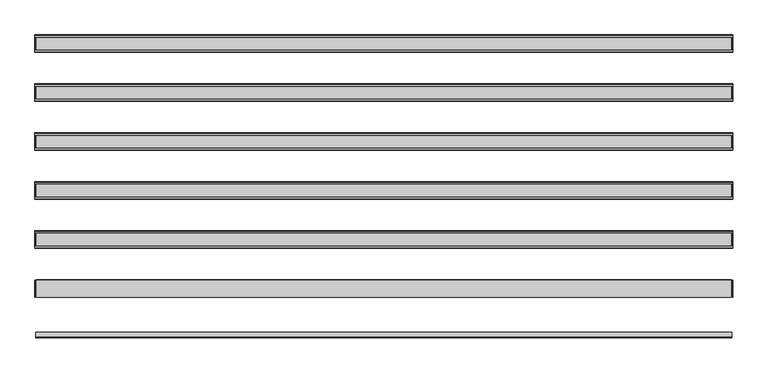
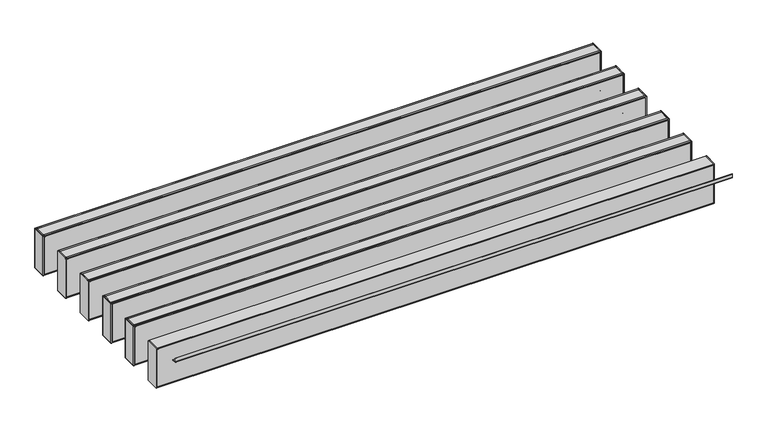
"""IFC4 building model written with IfcOpenShell, lengths in millimetres: proxy geometry, durlum_POLYLAM : durlum_POLYLAM 100 RV-L6."""

from ifc_helpers import new_model, si_unit, point, frame, frame_2d, origin, place, context, project, spatial, polyline, circle_curve, trimmed, segment, composite_curve, outline, extrude, source, transform, mapped, element, save
from ifc_brep_helpers import plane_surface, cylinder_surface, advanced_brep


def generic_models_18f5319a(model_context):
    return source(origin(), model_context, "Body", "SolidModel", [
        extrude(outline(composite_curve([segment(polyline([(2.0, 2079.9), (2.0, 2054.0)]), True, "CONTINUOUS"), segment(trimmed(circle_curve(frame_2d((4.0, 2054.0)), 2.0), [point((2.0, 2054.0))], [point((4.0, 2052.0))], True, "CARTESIAN"), True, "CONTINUOUS"), segment(polyline([(4.0, 2052.0), (29.9, 2052.0), (29.9, 2050.0), (4.0, 2050.0)]), True, "CONTINUOUS"), segment(trimmed(circle_curve(frame_2d((4.0, 2054.0)), 4.0), [point((4.0, 2050.0))], [point((0.0, 2054.0))], False, "CARTESIAN"), True, "CONTINUOUS"), segment(polyline([(0.0, 2054.0), (0.0, 2079.9), (2.0, 2079.9)]), True, "CONTINUOUS")], self_intersect=False)), frame((-1990.0, 0.0, 0.0), z_axis=(1.0, 0.0, 0.0), x_axis=(0.0, 1.0, 0.0)), (0.0, 0.0, 1.0), 3980.0),
        extrude(outline(polyline([(1993.0, 1729.0), (1995.0, 1729.0), (1995.0, 1631.0), (1993.0, 1631.0), (1993.0, 1729.0)])), frame((0.0, 0.0, 1717.9), z_axis=(0.0, 0.0, 1.0), x_axis=(1.0, 0.0, 0.0)), (0.0, 0.0, 1.0), 298.0),
        extrude(outline(polyline([(-1995.0, 1729.0), (-1993.0, 1729.0), (-1993.0, 1631.0), (-1995.0, 1631.0), (-1995.0, 1729.0)])), frame((0.0, 0.0, 1717.9), z_axis=(0.0, 0.0, 1.0), x_axis=(1.0, 0.0, 0.0)), (0.0, 0.0, 1.0), 298.0),
        extrude(outline(polyline([(1986.5, 1729.0), (1986.5, 1631.0), (-1986.5, 1631.0), (-1986.5, 1729.0), (1986.5, 1729.0)])), frame((0.0, 0.0, 1717.9), z_axis=(0.0, 0.0, 1.0), x_axis=(1.0, 0.0, 0.0)), (0.0, 0.0, 1.0), 298.0),
        extrude(outline(polyline([(1986.5, 1729.0), (-1986.5, 1729.0), (-1986.5, 1730.0), (1986.5, 1730.0), (1986.5, 1729.0)])), frame((0.0, 0.0, 1725.4), z_axis=(0.0, 0.0, 1.0), x_axis=(1.0, 0.0, 0.0)), (0.0, 0.0, 1.0), 283.0),
        extrude(outline(polyline([(1986.5, 1630.0), (-1986.5, 1630.0), (-1986.5, 1631.0), (1986.5, 1631.0), (1986.5, 1630.0)])), frame((0.0, 0.0, 1725.4), z_axis=(0.0, 0.0, 1.0), x_axis=(1.0, 0.0, 0.0)), (0.0, 0.0, 1.0), 283.0),
        advanced_brep(
        [(1995.0, 1728.0, 2016.9), (1995.0, 1718.0, 2016.9), (1995.0, 1718.0, 2015.9), (1995.0, 1729.0, 2015.9), (1995.0, 1729.0, 1717.9), (1995.0, 1631.0, 1717.9), (1995.0, 1631.0, 2015.8155735), (1995.0, 1642.0, 2015.8155735), (1995.0, 1642.0, 2016.9), (1995.0, 1632.0, 2016.9), (1995.0, 1630.0, 2014.9), (1995.0, 1630.0, 1718.9), (1995.0, 1632.0, 1716.9), (1995.0, 1728.0, 1716.9), (1995.0, 1730.0, 1718.9), (1995.0, 1730.0, 2014.9), (-1995.0, 1728.0, 2016.9), (-1995.0, 1730.0, 2014.9), (-1995.0, 1730.0, 1718.9), (-1995.0, 1728.0, 1716.9), (-1995.0, 1632.0, 1716.9), (-1995.0, 1630.0, 1718.9), (-1995.0, 1630.0, 2014.9), (-1995.0, 1632.0, 2016.9), (-1995.0, 1642.0, 2016.9), (-1995.0, 1642.0, 2015.8155735), (-1995.0, 1631.0, 2015.8155735), (-1995.0, 1631.0, 1717.9), (-1995.0, 1729.0, 1717.9), (-1995.0, 1729.0, 2015.9), (-1995.0, 1718.0, 2015.9), (-1995.0, 1718.0, 2016.9), (-1986.5, 1729.0, 2008.4), (1986.5, 1729.0, 2008.4), (1986.5, 1729.0, 1725.4), (-1986.5, 1729.0, 1725.4), (1986.5, 1631.0, 2008.4), (-1986.5, 1631.0, 2008.4), (-1986.5, 1631.0, 1725.4), (1986.5, 1631.0, 1725.4), (-1986.5, 1630.0, 2008.4), (1986.5, 1630.0, 2008.4), (1986.5, 1630.0, 1725.4), (-1986.5, 1630.0, 1725.4), (1986.5, 1730.0, 2008.4), (-1986.5, 1730.0, 2008.4), (-1986.5, 1730.0, 1725.4), (1986.5, 1730.0, 1725.4)],
        [
            (0, 1),
            (1, 2),
            (2, 3),
            (3, 4),
            (4, 5),
            (5, 6),
            (6, 7),
            (7, 8),
            (8, 9),
            (9, 10, circle_curve(frame((1995.0, 1632.0, 2014.9), z_axis=(1.0, 0.0, 0.0), x_axis=(0.0, 1.0, 0.0)), 2.0)),
            (10, 11),
            (11, 12, circle_curve(frame((1995.0, 1632.0, 1718.9), z_axis=(1.0, 0.0, 0.0), x_axis=(0.0, 1.0, 0.0)), 2.0)),
            (12, 13),
            (13, 14, circle_curve(frame((1995.0, 1728.0, 1718.9), z_axis=(1.0, 0.0, 0.0), x_axis=(0.0, 1.0, 0.0)), 2.0)),
            (14, 15),
            (15, 0, circle_curve(frame((1995.0, 1728.0, 2014.9), z_axis=(1.0, 0.0, 0.0), x_axis=(0.0, 1.0, 0.0)), 2.0)),
            (16, 17, circle_curve(frame((-1995.0, 1728.0, 2014.9), z_axis=(-1.0, 0.0, 0.0), x_axis=(0.0, 1.0, 0.0)), 2.0)),
            (17, 18),
            (18, 19, circle_curve(frame((-1995.0, 1728.0, 1718.9), z_axis=(-1.0, 0.0, 0.0), x_axis=(0.0, 1.0, 0.0)), 2.0)),
            (19, 20),
            (20, 21, circle_curve(frame((-1995.0, 1632.0, 1718.9), z_axis=(-1.0, 0.0, 0.0), x_axis=(0.0, 1.0, 0.0)), 2.0)),
            (21, 22),
            (22, 23, circle_curve(frame((-1995.0, 1632.0, 2014.9), z_axis=(-1.0, 0.0, 0.0), x_axis=(0.0, 1.0, 0.0)), 2.0)),
            (23, 24),
            (24, 25),
            (25, 26),
            (26, 27),
            (27, 28),
            (28, 29),
            (29, 30),
            (30, 31),
            (31, 16),
            (0, 16),
            (31, 1),
            (30, 2),
            (29, 3),
            (28, 4),
            (32, 33),
            (33, 34),
            (34, 35),
            (35, 32),
            (27, 5),
            (26, 6),
            (36, 37),
            (37, 38),
            (38, 39),
            (39, 36),
            (25, 7),
            (24, 8),
            (23, 9),
            (10, 22),
            (21, 11),
            (40, 41),
            (41, 42),
            (42, 43),
            (43, 40),
            (12, 20),
            (19, 13),
            (14, 18),
            (17, 15),
            (44, 45),
            (45, 46),
            (46, 47),
            (47, 44),
            (44, 33),
            (32, 45),
            (36, 41),
            (40, 37),
            (35, 46),
            (43, 38),
            (34, 47),
            (42, 39),
        ],
        [
            plane_surface(frame((1995.0, 1718.0, 2016.9), z_axis=(1.0, 0.0, 0.0), x_axis=(0.0, -1.0, 0.0))),
            plane_surface(frame((-1995.0, 1718.0, 2016.9), z_axis=(-1.0, 0.0, 0.0), x_axis=(0.0, 1.0, 0.0))),
            plane_surface(frame((1995.0, 1728.0, 2016.9), z_axis=(0.0, 0.0, 1.0), x_axis=(-1.0, 0.0, 0.0))),
            plane_surface(frame((1995.0, 1718.0, 2016.9), z_axis=(0.0, -1.0, 0.0), x_axis=(-1.0, 0.0, 0.0))),
            plane_surface(frame((1995.0, 1718.0, 2015.9), z_axis=(0.0, 0.0, -1.0), x_axis=(-1.0, 0.0, 0.0))),
            plane_surface(frame((1995.0, 1729.0, 2015.9), z_axis=(0.0, -1.0, 0.0), x_axis=(-1.0, 0.0, 0.0))),
            plane_surface(frame((1995.0, 1729.0, 1717.9), z_axis=(0.0, 0.0, 1.0), x_axis=(-1.0, 0.0, 0.0))),
            plane_surface(frame((1995.0, 1631.0, 1717.9), z_axis=(0.0, 1.0, 0.0), x_axis=(-1.0, 0.0, 0.0))),
            plane_surface(frame((1995.0, 1631.0, 2015.8155735), z_axis=(0.0, 0.0, -1.0), x_axis=(-1.0, 0.0, 0.0))),
            plane_surface(frame((1995.0, 1642.0, 2015.8155735), z_axis=(0.0, 1.0, 0.0), x_axis=(-1.0, 0.0, 0.0))),
            plane_surface(frame((1995.0, 1642.0, 2016.9), z_axis=(0.0, 0.0, 1.0), x_axis=(-1.0, 0.0, 0.0))),
            plane_surface(frame((1995.0, 1630.0, 2014.9), z_axis=(0.0, -1.0, 0.0), x_axis=(-1.0, 0.0, 0.0))),
            plane_surface(frame((1995.0, 1632.0, 1716.9), z_axis=(0.0, 0.0, -1.0), x_axis=(-1.0, 0.0, 0.0))),
            plane_surface(frame((1995.0, 1730.0, 1718.9), z_axis=(0.0, 1.0, 0.0), x_axis=(-1.0, 0.0, 0.0))),
            cylinder_surface(frame((-1995.0, 1632.0, 2014.9), z_axis=(1.0, 0.0, 0.0), x_axis=(0.0, 1.0, 0.0)), 2.0),
            cylinder_surface(frame((-1995.0, 1632.0, 1718.9), z_axis=(1.0, 0.0, 0.0), x_axis=(0.0, 1.0, 0.0)), 2.0),
            cylinder_surface(frame((-1995.0, 1728.0, 1718.9), z_axis=(1.0, 0.0, 0.0), x_axis=(0.0, 1.0, 0.0)), 2.0),
            cylinder_surface(frame((-1995.0, 1728.0, 2014.9), z_axis=(1.0, 0.0, 0.0), x_axis=(0.0, 1.0, 0.0)), 2.0),
            plane_surface(frame((1986.5, 1630.0, 2008.4), z_axis=(0.0, 0.0, -1.0), x_axis=(0.0, 1.0, 0.0))),
            plane_surface(frame((-1986.5, 1630.0, 2008.4), z_axis=(1.0, 0.0, 0.0), x_axis=(0.0, 1.0, 0.0))),
            plane_surface(frame((-1986.5, 1630.0, 1725.4), z_axis=(0.0, 0.0, 1.0), x_axis=(0.0, 1.0, 0.0))),
            plane_surface(frame((1986.5, 1630.0, 1725.4), z_axis=(-1.0, 0.0, 0.0), x_axis=(0.0, 1.0, 0.0))),
        ],
        [
            (0, [[1, 2, 3, 4, 5, 6, 7, 8, 9, 10, 11, 12, 13, 14, 15, 16]]),
            (1, [[17, 18, 19, 20, 21, 22, 23, 24, 25, 26, 27, 28, 29, 30, 31, 32]]),
            (2, [[-1, 33, -32, 34]]),
            (3, [[-2, -34, -31, 35]]),
            (4, [[-3, -35, -30, 36]]),
            (5, [[-4, -36, -29, 37], [38, 39, 40, 41]]),
            (6, [[-5, -37, -28, 42]]),
            (7, [[-6, -42, -27, 43], [44, 45, 46, 47]]),
            (8, [[-7, -43, -26, 48]]),
            (9, [[-8, -48, -25, 49]]),
            (10, [[-9, -49, -24, 50]]),
            (11, [[-11, 51, -22, 52], [53, 54, 55, 56]]),
            (12, [[-13, 57, -20, 58]]),
            (13, [[-15, 59, -18, 60], [61, 62, 63, 64]]),
            (14, [[-10, -50, -23, -51]]),
            (15, [[-12, -52, -21, -57]]),
            (16, [[-14, -58, -19, -59]]),
            (17, [[-16, -60, -17, -33]]),
            (18, [[65, -38, 66, -61]]),
            (18, [[67, -53, 68, -44]]),
            (19, [[-66, -41, 69, -62]]),
            (19, [[-68, -56, 70, -45]]),
            (20, [[-69, -40, 71, -63]]),
            (20, [[-70, -55, 72, -46]]),
            (21, [[-65, -64, -71, -39]]),
            (21, [[-67, -47, -72, -54]]),
        ],
    ),
        extrude(outline(polyline([(1993.0, 1449.0), (1995.0, 1449.0), (1995.0, 1351.0), (1993.0, 1351.0), (1993.0, 1449.0)])), frame((0.0, 0.0, 1717.9), z_axis=(0.0, 0.0, 1.0), x_axis=(1.0, 0.0, 0.0)), (0.0, 0.0, 1.0), 298.0),
        extrude(outline(polyline([(-1995.0, 1449.0), (-1993.0, 1449.0), (-1993.0, 1351.0), (-1995.0, 1351.0), (-1995.0, 1449.0)])), frame((0.0, 0.0, 1717.9), z_axis=(0.0, 0.0, 1.0), x_axis=(1.0, 0.0, 0.0)), (0.0, 0.0, 1.0), 298.0),
        extrude(outline(polyline([(1986.5, 1449.0), (1986.5, 1351.0), (-1986.5, 1351.0), (-1986.5, 1449.0), (1986.5, 1449.0)])), frame((0.0, 0.0, 1717.9), z_axis=(0.0, 0.0, 1.0), x_axis=(1.0, 0.0, 0.0)), (0.0, 0.0, 1.0), 298.0),
        extrude(outline(polyline([(1986.5, 1449.0), (-1986.5, 1449.0), (-1986.5, 1450.0), (1986.5, 1450.0), (1986.5, 1449.0)])), frame((0.0, 0.0, 1725.4), z_axis=(0.0, 0.0, 1.0), x_axis=(1.0, 0.0, 0.0)), (0.0, 0.0, 1.0), 283.0),
        extrude(outline(polyline([(1986.5, 1350.0), (-1986.5, 1350.0), (-1986.5, 1351.0), (1986.5, 1351.0), (1986.5, 1350.0)])), frame((0.0, 0.0, 1725.4), z_axis=(0.0, 0.0, 1.0), x_axis=(1.0, 0.0, 0.0)), (0.0, 0.0, 1.0), 283.0),
        advanced_brep(
        [(1995.0, 1448.0, 2016.9), (1995.0, 1438.0, 2016.9), (1995.0, 1438.0, 2015.9), (1995.0, 1449.0, 2015.9), (1995.0, 1449.0, 1717.9), (1995.0, 1351.0, 1717.9), (1995.0, 1351.0, 2015.8155735), (1995.0, 1362.0, 2015.8155735), (1995.0, 1362.0, 2016.9), (1995.0, 1352.0, 2016.9), (1995.0, 1350.0, 2014.9), (1995.0, 1350.0, 1718.9), (1995.0, 1352.0, 1716.9), (1995.0, 1448.0, 1716.9), (1995.0, 1450.0, 1718.9), (1995.0, 1450.0, 2014.9), (-1995.0, 1448.0, 2016.9), (-1995.0, 1450.0, 2014.9), (-1995.0, 1450.0, 1718.9), (-1995.0, 1448.0, 1716.9), (-1995.0, 1352.0, 1716.9), (-1995.0, 1350.0, 1718.9), (-1995.0, 1350.0, 2014.9), (-1995.0, 1352.0, 2016.9), (-1995.0, 1362.0, 2016.9), (-1995.0, 1362.0, 2015.8155735), (-1995.0, 1351.0, 2015.8155735), (-1995.0, 1351.0, 1717.9), (-1995.0, 1449.0, 1717.9), (-1995.0, 1449.0, 2015.9), (-1995.0, 1438.0, 2015.9), (-1995.0, 1438.0, 2016.9), (-1986.5, 1449.0, 2008.4), (1986.5, 1449.0, 2008.4), (1986.5, 1449.0, 1725.4), (-1986.5, 1449.0, 1725.4), (1986.5, 1351.0, 2008.4), (-1986.5, 1351.0, 2008.4), (-1986.5, 1351.0, 1725.4), (1986.5, 1351.0, 1725.4), (-1986.5, 1350.0, 2008.4), (1986.5, 1350.0, 2008.4), (1986.5, 1350.0, 1725.4), (-1986.5, 1350.0, 1725.4), (1986.5, 1450.0, 2008.4), (-1986.5, 1450.0, 2008.4), (-1986.5, 1450.0, 1725.4), (1986.5, 1450.0, 1725.4)],
        [
            (0, 1),
            (1, 2),
            (2, 3),
            (3, 4),
            (4, 5),
            (5, 6),
            (6, 7),
            (7, 8),
            (8, 9),
            (9, 10, circle_curve(frame((1995.0, 1352.0, 2014.9), z_axis=(1.0, 0.0, 0.0), x_axis=(0.0, 1.0, 0.0)), 2.0)),
            (10, 11),
            (11, 12, circle_curve(frame((1995.0, 1352.0, 1718.9), z_axis=(1.0, 0.0, 0.0), x_axis=(0.0, 1.0, 0.0)), 2.0)),
            (12, 13),
            (13, 14, circle_curve(frame((1995.0, 1448.0, 1718.9), z_axis=(1.0, 0.0, 0.0), x_axis=(0.0, 1.0, 0.0)), 2.0)),
            (14, 15),
            (15, 0, circle_curve(frame((1995.0, 1448.0, 2014.9), z_axis=(1.0, 0.0, 0.0), x_axis=(0.0, 1.0, 0.0)), 2.0)),
            (16, 17, circle_curve(frame((-1995.0, 1448.0, 2014.9), z_axis=(-1.0, 0.0, 0.0), x_axis=(0.0, 1.0, 0.0)), 2.0)),
            (17, 18),
            (18, 19, circle_curve(frame((-1995.0, 1448.0, 1718.9), z_axis=(-1.0, 0.0, 0.0), x_axis=(0.0, 1.0, 0.0)), 2.0)),
            (19, 20),
            (20, 21, circle_curve(frame((-1995.0, 1352.0, 1718.9), z_axis=(-1.0, 0.0, 0.0), x_axis=(0.0, 1.0, 0.0)), 2.0)),
            (21, 22),
            (22, 23, circle_curve(frame((-1995.0, 1352.0, 2014.9), z_axis=(-1.0, 0.0, 0.0), x_axis=(0.0, 1.0, 0.0)), 2.0)),
            (23, 24),
            (24, 25),
            (25, 26),
            (26, 27),
            (27, 28),
            (28, 29),
            (29, 30),
            (30, 31),
            (31, 16),
            (0, 16),
            (31, 1),
            (30, 2),
            (29, 3),
            (28, 4),
            (32, 33),
            (33, 34),
            (34, 35),
            (35, 32),
            (27, 5),
            (26, 6),
            (36, 37),
            (37, 38),
            (38, 39),
            (39, 36),
            (25, 7),
            (24, 8),
            (23, 9),
            (10, 22),
            (21, 11),
            (40, 41),
            (41, 42),
            (42, 43),
            (43, 40),
            (12, 20),
            (19, 13),
            (14, 18),
            (17, 15),
            (44, 45),
            (45, 46),
            (46, 47),
            (47, 44),
            (44, 33),
            (32, 45),
            (36, 41),
            (40, 37),
            (35, 46),
            (43, 38),
            (34, 47),
            (42, 39),
        ],
        [
            plane_surface(frame((1995.0, 1438.0, 2016.9), z_axis=(1.0, 0.0, 0.0), x_axis=(0.0, -1.0, 0.0))),
            plane_surface(frame((-1995.0, 1438.0, 2016.9), z_axis=(-1.0, 0.0, 0.0), x_axis=(0.0, 1.0, 0.0))),
            plane_surface(frame((1995.0, 1448.0, 2016.9), z_axis=(0.0, 0.0, 1.0), x_axis=(-1.0, 0.0, 0.0))),
            plane_surface(frame((1995.0, 1438.0, 2016.9), z_axis=(0.0, -1.0, 0.0), x_axis=(-1.0, 0.0, 0.0))),
            plane_surface(frame((1995.0, 1438.0, 2015.9), z_axis=(0.0, 0.0, -1.0), x_axis=(-1.0, 0.0, 0.0))),
            plane_surface(frame((1995.0, 1449.0, 2015.9), z_axis=(0.0, -1.0, 0.0), x_axis=(-1.0, 0.0, 0.0))),
            plane_surface(frame((1995.0, 1449.0, 1717.9), z_axis=(0.0, 0.0, 1.0), x_axis=(-1.0, 0.0, 0.0))),
            plane_surface(frame((1995.0, 1351.0, 1717.9), z_axis=(0.0, 1.0, 0.0), x_axis=(-1.0, 0.0, 0.0))),
            plane_surface(frame((1995.0, 1351.0, 2015.8155735), z_axis=(0.0, 0.0, -1.0), x_axis=(-1.0, 0.0, 0.0))),
            plane_surface(frame((1995.0, 1362.0, 2015.8155735), z_axis=(0.0, 1.0, 0.0), x_axis=(-1.0, 0.0, 0.0))),
            plane_surface(frame((1995.0, 1362.0, 2016.9), z_axis=(0.0, 0.0, 1.0), x_axis=(-1.0, 0.0, 0.0))),
            plane_surface(frame((1995.0, 1350.0, 2014.9), z_axis=(0.0, -1.0, 0.0), x_axis=(-1.0, 0.0, 0.0))),
            plane_surface(frame((1995.0, 1352.0, 1716.9), z_axis=(0.0, 0.0, -1.0), x_axis=(-1.0, 0.0, 0.0))),
            plane_surface(frame((1995.0, 1450.0, 1718.9), z_axis=(0.0, 1.0, 0.0), x_axis=(-1.0, 0.0, 0.0))),
            cylinder_surface(frame((-1995.0, 1352.0, 2014.9), z_axis=(1.0, 0.0, 0.0), x_axis=(0.0, 1.0, 0.0)), 2.0),
            cylinder_surface(frame((-1995.0, 1352.0, 1718.9), z_axis=(1.0, 0.0, 0.0), x_axis=(0.0, 1.0, 0.0)), 2.0),
            cylinder_surface(frame((-1995.0, 1448.0, 1718.9), z_axis=(1.0, 0.0, 0.0), x_axis=(0.0, 1.0, 0.0)), 2.0),
            cylinder_surface(frame((-1995.0, 1448.0, 2014.9), z_axis=(1.0, 0.0, 0.0), x_axis=(0.0, 1.0, 0.0)), 2.0),
            plane_surface(frame((1986.5, 1350.0, 2008.4), z_axis=(0.0, 0.0, -1.0), x_axis=(0.0, 1.0, 0.0))),
            plane_surface(frame((-1986.5, 1350.0, 2008.4), z_axis=(1.0, 0.0, 0.0), x_axis=(0.0, 1.0, 0.0))),
            plane_surface(frame((-1986.5, 1350.0, 1725.4), z_axis=(0.0, 0.0, 1.0), x_axis=(0.0, 1.0, 0.0))),
            plane_surface(frame((1986.5, 1350.0, 1725.4), z_axis=(-1.0, 0.0, 0.0), x_axis=(0.0, 1.0, 0.0))),
        ],
        [
            (0, [[1, 2, 3, 4, 5, 6, 7, 8, 9, 10, 11, 12, 13, 14, 15, 16]]),
            (1, [[17, 18, 19, 20, 21, 22, 23, 24, 25, 26, 27, 28, 29, 30, 31, 32]]),
            (2, [[-1, 33, -32, 34]]),
            (3, [[-2, -34, -31, 35]]),
            (4, [[-3, -35, -30, 36]]),
            (5, [[-4, -36, -29, 37], [38, 39, 40, 41]]),
            (6, [[-5, -37, -28, 42]]),
            (7, [[-6, -42, -27, 43], [44, 45, 46, 47]]),
            (8, [[-7, -43, -26, 48]]),
            (9, [[-8, -48, -25, 49]]),
            (10, [[-9, -49, -24, 50]]),
            (11, [[-11, 51, -22, 52], [53, 54, 55, 56]]),
            (12, [[-13, 57, -20, 58]]),
            (13, [[-15, 59, -18, 60], [61, 62, 63, 64]]),
            (14, [[-10, -50, -23, -51]]),
            (15, [[-12, -52, -21, -57]]),
            (16, [[-14, -58, -19, -59]]),
            (17, [[-16, -60, -17, -33]]),
            (18, [[65, -38, 66, -61]]),
            (18, [[67, -53, 68, -44]]),
            (19, [[-66, -41, 69, -62]]),
            (19, [[-68, -56, 70, -45]]),
            (20, [[-69, -40, 71, -63]]),
            (20, [[-70, -55, 72, -46]]),
            (21, [[-65, -64, -71, -39]]),
            (21, [[-67, -47, -72, -54]]),
        ],
    ),
        extrude(outline(polyline([(1993.0, 1169.0), (1995.0, 1169.0), (1995.0, 1071.0), (1993.0, 1071.0), (1993.0, 1169.0)])), frame((0.0, 0.0, 1717.9), z_axis=(0.0, 0.0, 1.0), x_axis=(1.0, 0.0, 0.0)), (0.0, 0.0, 1.0), 298.0),
        extrude(outline(polyline([(-1995.0, 1169.0), (-1993.0, 1169.0), (-1993.0, 1071.0), (-1995.0, 1071.0), (-1995.0, 1169.0)])), frame((0.0, 0.0, 1717.9), z_axis=(0.0, 0.0, 1.0), x_axis=(1.0, 0.0, 0.0)), (0.0, 0.0, 1.0), 298.0),
        extrude(outline(polyline([(1986.5, 1169.0), (1986.5, 1071.0), (-1986.5, 1071.0), (-1986.5, 1169.0), (1986.5, 1169.0)])), frame((0.0, 0.0, 1717.9), z_axis=(0.0, 0.0, 1.0), x_axis=(1.0, 0.0, 0.0)), (0.0, 0.0, 1.0), 298.0),
        extrude(outline(polyline([(1986.5, 1169.0), (-1986.5, 1169.0), (-1986.5, 1170.0), (1986.5, 1170.0), (1986.5, 1169.0)])), frame((0.0, 0.0, 1725.4), z_axis=(0.0, 0.0, 1.0), x_axis=(1.0, 0.0, 0.0)), (0.0, 0.0, 1.0), 283.0),
        extrude(outline(polyline([(1986.5, 1070.0), (-1986.5, 1070.0), (-1986.5, 1071.0), (1986.5, 1071.0), (1986.5, 1070.0)])), frame((0.0, 0.0, 1725.4), z_axis=(0.0, 0.0, 1.0), x_axis=(1.0, 0.0, 0.0)), (0.0, 0.0, 1.0), 283.0),
        advanced_brep(
        [(1995.0, 1168.0, 2016.9), (1995.0, 1158.0, 2016.9), (1995.0, 1158.0, 2015.9), (1995.0, 1169.0, 2015.9), (1995.0, 1169.0, 1717.9), (1995.0, 1071.0, 1717.9), (1995.0, 1071.0, 2015.8155735), (1995.0, 1082.0, 2015.8155735), (1995.0, 1082.0, 2016.9), (1995.0, 1072.0, 2016.9), (1995.0, 1070.0, 2014.9), (1995.0, 1070.0, 1718.9), (1995.0, 1072.0, 1716.9), (1995.0, 1168.0, 1716.9), (1995.0, 1170.0, 1718.9), (1995.0, 1170.0, 2014.9), (-1995.0, 1168.0, 2016.9), (-1995.0, 1170.0, 2014.9), (-1995.0, 1170.0, 1718.9), (-1995.0, 1168.0, 1716.9), (-1995.0, 1072.0, 1716.9), (-1995.0, 1070.0, 1718.9), (-1995.0, 1070.0, 2014.9), (-1995.0, 1072.0, 2016.9), (-1995.0, 1082.0, 2016.9), (-1995.0, 1082.0, 2015.8155735), (-1995.0, 1071.0, 2015.8155735), (-1995.0, 1071.0, 1717.9), (-1995.0, 1169.0, 1717.9), (-1995.0, 1169.0, 2015.9), (-1995.0, 1158.0, 2015.9), (-1995.0, 1158.0, 2016.9), (-1986.5, 1169.0, 2008.4), (1986.5, 1169.0, 2008.4), (1986.5, 1169.0, 1725.4), (-1986.5, 1169.0, 1725.4), (1986.5, 1071.0, 2008.4), (-1986.5, 1071.0, 2008.4), (-1986.5, 1071.0, 1725.4), (1986.5, 1071.0, 1725.4), (-1986.5, 1070.0, 2008.4), (1986.5, 1070.0, 2008.4), (1986.5, 1070.0, 1725.4), (-1986.5, 1070.0, 1725.4), (1986.5, 1170.0, 2008.4), (-1986.5, 1170.0, 2008.4), (-1986.5, 1170.0, 1725.4), (1986.5, 1170.0, 1725.4)],
        [
            (0, 1),
            (1, 2),
            (2, 3),
            (3, 4),
            (4, 5),
            (5, 6),
            (6, 7),
            (7, 8),
            (8, 9),
            (9, 10, circle_curve(frame((1995.0, 1072.0, 2014.9), z_axis=(1.0, 0.0, 0.0), x_axis=(0.0, 1.0, 0.0)), 2.0)),
            (10, 11),
            (11, 12, circle_curve(frame((1995.0, 1072.0, 1718.9), z_axis=(1.0, 0.0, 0.0), x_axis=(0.0, 1.0, 0.0)), 2.0)),
            (12, 13),
            (13, 14, circle_curve(frame((1995.0, 1168.0, 1718.9), z_axis=(1.0, 0.0, 0.0), x_axis=(0.0, 1.0, 0.0)), 2.0)),
            (14, 15),
            (15, 0, circle_curve(frame((1995.0, 1168.0, 2014.9), z_axis=(1.0, 0.0, 0.0), x_axis=(0.0, 1.0, 0.0)), 2.0)),
            (16, 17, circle_curve(frame((-1995.0, 1168.0, 2014.9), z_axis=(-1.0, 0.0, 0.0), x_axis=(0.0, 1.0, 0.0)), 2.0)),
            (17, 18),
            (18, 19, circle_curve(frame((-1995.0, 1168.0, 1718.9), z_axis=(-1.0, 0.0, 0.0), x_axis=(0.0, 1.0, 0.0)), 2.0)),
            (19, 20),
            (20, 21, circle_curve(frame((-1995.0, 1072.0, 1718.9), z_axis=(-1.0, 0.0, 0.0), x_axis=(0.0, 1.0, 0.0)), 2.0)),
            (21, 22),
            (22, 23, circle_curve(frame((-1995.0, 1072.0, 2014.9), z_axis=(-1.0, 0.0, 0.0), x_axis=(0.0, 1.0, 0.0)), 2.0)),
            (23, 24),
            (24, 25),
            (25, 26),
            (26, 27),
            (27, 28),
            (28, 29),
            (29, 30),
            (30, 31),
            (31, 16),
            (0, 16),
            (31, 1),
            (30, 2),
            (29, 3),
            (28, 4),
            (32, 33),
            (33, 34),
            (34, 35),
            (35, 32),
            (27, 5),
            (26, 6),
            (36, 37),
            (37, 38),
            (38, 39),
            (39, 36),
            (25, 7),
            (24, 8),
            (23, 9),
            (10, 22),
            (21, 11),
            (40, 41),
            (41, 42),
            (42, 43),
            (43, 40),
            (12, 20),
            (19, 13),
            (14, 18),
            (17, 15),
            (44, 45),
            (45, 46),
            (46, 47),
            (47, 44),
            (44, 33),
            (32, 45),
            (36, 41),
            (40, 37),
            (35, 46),
            (43, 38),
            (34, 47),
            (42, 39),
        ],
        [
            plane_surface(frame((1995.0, 1158.0, 2016.9), z_axis=(1.0, 0.0, 0.0), x_axis=(0.0, -1.0, 0.0))),
            plane_surface(frame((-1995.0, 1158.0, 2016.9), z_axis=(-1.0, 0.0, 0.0), x_axis=(0.0, 1.0, 0.0))),
            plane_surface(frame((1995.0, 1168.0, 2016.9), z_axis=(0.0, 0.0, 1.0), x_axis=(-1.0, 0.0, 0.0))),
            plane_surface(frame((1995.0, 1158.0, 2016.9), z_axis=(0.0, -1.0, 0.0), x_axis=(-1.0, 0.0, 0.0))),
            plane_surface(frame((1995.0, 1158.0, 2015.9), z_axis=(0.0, 0.0, -1.0), x_axis=(-1.0, 0.0, 0.0))),
            plane_surface(frame((1995.0, 1169.0, 2015.9), z_axis=(0.0, -1.0, 0.0), x_axis=(-1.0, 0.0, 0.0))),
            plane_surface(frame((1995.0, 1169.0, 1717.9), z_axis=(0.0, 0.0, 1.0), x_axis=(-1.0, 0.0, 0.0))),
            plane_surface(frame((1995.0, 1071.0, 1717.9), z_axis=(0.0, 1.0, 0.0), x_axis=(-1.0, 0.0, 0.0))),
            plane_surface(frame((1995.0, 1071.0, 2015.8155735), z_axis=(0.0, 0.0, -1.0), x_axis=(-1.0, 0.0, 0.0))),
            plane_surface(frame((1995.0, 1082.0, 2015.8155735), z_axis=(0.0, 1.0, 0.0), x_axis=(-1.0, 0.0, 0.0))),
            plane_surface(frame((1995.0, 1082.0, 2016.9), z_axis=(0.0, 0.0, 1.0), x_axis=(-1.0, 0.0, 0.0))),
            plane_surface(frame((1995.0, 1070.0, 2014.9), z_axis=(0.0, -1.0, 0.0), x_axis=(-1.0, 0.0, 0.0))),
            plane_surface(frame((1995.0, 1072.0, 1716.9), z_axis=(0.0, 0.0, -1.0), x_axis=(-1.0, 0.0, 0.0))),
            plane_surface(frame((1995.0, 1170.0, 1718.9), z_axis=(0.0, 1.0, 0.0), x_axis=(-1.0, 0.0, 0.0))),
            cylinder_surface(frame((-1995.0, 1072.0, 2014.9), z_axis=(1.0, 0.0, 0.0), x_axis=(0.0, 1.0, 0.0)), 2.0),
            cylinder_surface(frame((-1995.0, 1072.0, 1718.9), z_axis=(1.0, 0.0, 0.0), x_axis=(0.0, 1.0, 0.0)), 2.0),
            cylinder_surface(frame((-1995.0, 1168.0, 1718.9), z_axis=(1.0, 0.0, 0.0), x_axis=(0.0, 1.0, 0.0)), 2.0),
            cylinder_surface(frame((-1995.0, 1168.0, 2014.9), z_axis=(1.0, 0.0, 0.0), x_axis=(0.0, 1.0, 0.0)), 2.0),
            plane_surface(frame((1986.5, 1070.0, 2008.4), z_axis=(0.0, 0.0, -1.0), x_axis=(0.0, 1.0, 0.0))),
            plane_surface(frame((-1986.5, 1070.0, 2008.4), z_axis=(1.0, 0.0, 0.0), x_axis=(0.0, 1.0, 0.0))),
            plane_surface(frame((-1986.5, 1070.0, 1725.4), z_axis=(0.0, 0.0, 1.0), x_axis=(0.0, 1.0, 0.0))),
            plane_surface(frame((1986.5, 1070.0, 1725.4), z_axis=(-1.0, 0.0, 0.0), x_axis=(0.0, 1.0, 0.0))),
        ],
        [
            (0, [[1, 2, 3, 4, 5, 6, 7, 8, 9, 10, 11, 12, 13, 14, 15, 16]]),
            (1, [[17, 18, 19, 20, 21, 22, 23, 24, 25, 26, 27, 28, 29, 30, 31, 32]]),
            (2, [[-1, 33, -32, 34]]),
            (3, [[-2, -34, -31, 35]]),
            (4, [[-3, -35, -30, 36]]),
            (5, [[-4, -36, -29, 37], [38, 39, 40, 41]]),
            (6, [[-5, -37, -28, 42]]),
            (7, [[-6, -42, -27, 43], [44, 45, 46, 47]]),
            (8, [[-7, -43, -26, 48]]),
            (9, [[-8, -48, -25, 49]]),
            (10, [[-9, -49, -24, 50]]),
            (11, [[-11, 51, -22, 52], [53, 54, 55, 56]]),
            (12, [[-13, 57, -20, 58]]),
            (13, [[-15, 59, -18, 60], [61, 62, 63, 64]]),
            (14, [[-10, -50, -23, -51]]),
            (15, [[-12, -52, -21, -57]]),
            (16, [[-14, -58, -19, -59]]),
            (17, [[-16, -60, -17, -33]]),
            (18, [[65, -38, 66, -61]]),
            (18, [[67, -53, 68, -44]]),
            (19, [[-66, -41, 69, -62]]),
            (19, [[-68, -56, 70, -45]]),
            (20, [[-69, -40, 71, -63]]),
            (20, [[-70, -55, 72, -46]]),
            (21, [[-65, -64, -71, -39]]),
            (21, [[-67, -47, -72, -54]]),
        ],
    ),
        extrude(outline(polyline([(1993.0, 889.0), (1995.0, 889.0), (1995.0, 791.0), (1993.0, 791.0), (1993.0, 889.0)])), frame((0.0, 0.0, 1717.9), z_axis=(0.0, 0.0, 1.0), x_axis=(1.0, 0.0, 0.0)), (0.0, 0.0, 1.0), 298.0),
        extrude(outline(polyline([(-1995.0, 889.0), (-1993.0, 889.0), (-1993.0, 791.0), (-1995.0, 791.0), (-1995.0, 889.0)])), frame((0.0, 0.0, 1717.9), z_axis=(0.0, 0.0, 1.0), x_axis=(1.0, 0.0, 0.0)), (0.0, 0.0, 1.0), 298.0),
        extrude(outline(polyline([(1986.5, 889.0), (1986.5, 791.0), (-1986.5, 791.0), (-1986.5, 889.0), (1986.5, 889.0)])), frame((0.0, 0.0, 1717.9), z_axis=(0.0, 0.0, 1.0), x_axis=(1.0, 0.0, 0.0)), (0.0, 0.0, 1.0), 298.0),
        extrude(outline(polyline([(1986.5, 889.0), (-1986.5, 889.0), (-1986.5, 890.0), (1986.5, 890.0), (1986.5, 889.0)])), frame((0.0, 0.0, 1725.4), z_axis=(0.0, 0.0, 1.0), x_axis=(1.0, 0.0, 0.0)), (0.0, 0.0, 1.0), 283.0),
        extrude(outline(polyline([(1986.5, 790.0), (-1986.5, 790.0), (-1986.5, 791.0), (1986.5, 791.0), (1986.5, 790.0)])), frame((0.0, 0.0, 1725.4), z_axis=(0.0, 0.0, 1.0), x_axis=(1.0, 0.0, 0.0)), (0.0, 0.0, 1.0), 283.0),
        advanced_brep(
        [(1995.0, 888.0, 2016.9), (1995.0, 878.0, 2016.9), (1995.0, 878.0, 2015.9), (1995.0, 889.0, 2015.9), (1995.0, 889.0, 1717.9), (1995.0, 791.0, 1717.9), (1995.0, 791.0, 2015.8155735), (1995.0, 802.0, 2015.8155735), (1995.0, 802.0, 2016.9), (1995.0, 792.0, 2016.9), (1995.0, 790.0, 2014.9), (1995.0, 790.0, 1718.9), (1995.0, 792.0, 1716.9), (1995.0, 888.0, 1716.9), (1995.0, 890.0, 1718.9), (1995.0, 890.0, 2014.9), (-1995.0, 888.0, 2016.9), (-1995.0, 890.0, 2014.9), (-1995.0, 890.0, 1718.9), (-1995.0, 888.0, 1716.9), (-1995.0, 792.0, 1716.9), (-1995.0, 790.0, 1718.9), (-1995.0, 790.0, 2014.9), (-1995.0, 792.0, 2016.9), (-1995.0, 802.0, 2016.9), (-1995.0, 802.0, 2015.8155735), (-1995.0, 791.0, 2015.8155735), (-1995.0, 791.0, 1717.9), (-1995.0, 889.0, 1717.9), (-1995.0, 889.0, 2015.9), (-1995.0, 878.0, 2015.9), (-1995.0, 878.0, 2016.9), (-1986.5, 889.0, 2008.4), (1986.5, 889.0, 2008.4), (1986.5, 889.0, 1725.4), (-1986.5, 889.0, 1725.4), (1986.5, 791.0, 2008.4), (-1986.5, 791.0, 2008.4), (-1986.5, 791.0, 1725.4), (1986.5, 791.0, 1725.4), (-1986.5, 790.0, 2008.4), (1986.5, 790.0, 2008.4), (1986.5, 790.0, 1725.4), (-1986.5, 790.0, 1725.4), (1986.5, 890.0, 2008.4), (-1986.5, 890.0, 2008.4), (-1986.5, 890.0, 1725.4), (1986.5, 890.0, 1725.4)],
        [
            (0, 1),
            (1, 2),
            (2, 3),
            (3, 4),
            (4, 5),
            (5, 6),
            (6, 7),
            (7, 8),
            (8, 9),
            (9, 10, circle_curve(frame((1995.0, 792.0, 2014.9), z_axis=(1.0, 0.0, 0.0), x_axis=(0.0, 1.0, 0.0)), 2.0)),
            (10, 11),
            (11, 12, circle_curve(frame((1995.0, 792.0, 1718.9), z_axis=(1.0, 0.0, 0.0), x_axis=(0.0, 1.0, 0.0)), 2.0)),
            (12, 13),
            (13, 14, circle_curve(frame((1995.0, 888.0, 1718.9), z_axis=(1.0, 0.0, 0.0), x_axis=(0.0, 1.0, 0.0)), 2.0)),
            (14, 15),
            (15, 0, circle_curve(frame((1995.0, 888.0, 2014.9), z_axis=(1.0, 0.0, 0.0), x_axis=(0.0, 1.0, 0.0)), 2.0)),
            (16, 17, circle_curve(frame((-1995.0, 888.0, 2014.9), z_axis=(-1.0, 0.0, 0.0), x_axis=(0.0, 1.0, 0.0)), 2.0)),
            (17, 18),
            (18, 19, circle_curve(frame((-1995.0, 888.0, 1718.9), z_axis=(-1.0, 0.0, 0.0), x_axis=(0.0, 1.0, 0.0)), 2.0)),
            (19, 20),
            (20, 21, circle_curve(frame((-1995.0, 792.0, 1718.9), z_axis=(-1.0, 0.0, 0.0), x_axis=(0.0, 1.0, 0.0)), 2.0)),
            (21, 22),
            (22, 23, circle_curve(frame((-1995.0, 792.0, 2014.9), z_axis=(-1.0, 0.0, 0.0), x_axis=(0.0, 1.0, 0.0)), 2.0)),
            (23, 24),
            (24, 25),
            (25, 26),
            (26, 27),
            (27, 28),
            (28, 29),
            (29, 30),
            (30, 31),
            (31, 16),
            (0, 16),
            (31, 1),
            (30, 2),
            (29, 3),
            (28, 4),
            (32, 33),
            (33, 34),
            (34, 35),
            (35, 32),
            (27, 5),
            (26, 6),
            (36, 37),
            (37, 38),
            (38, 39),
            (39, 36),
            (25, 7),
            (24, 8),
            (23, 9),
            (10, 22),
            (21, 11),
            (40, 41),
            (41, 42),
            (42, 43),
            (43, 40),
            (12, 20),
            (19, 13),
            (14, 18),
            (17, 15),
            (44, 45),
            (45, 46),
            (46, 47),
            (47, 44),
            (44, 33),
            (32, 45),
            (36, 41),
            (40, 37),
            (35, 46),
            (43, 38),
            (34, 47),
            (42, 39),
        ],
        [
            plane_surface(frame((1995.0, 878.0, 2016.9), z_axis=(1.0, 0.0, 0.0), x_axis=(0.0, -1.0, 0.0))),
            plane_surface(frame((-1995.0, 878.0, 2016.9), z_axis=(-1.0, 0.0, 0.0), x_axis=(0.0, 1.0, 0.0))),
            plane_surface(frame((1995.0, 888.0, 2016.9), z_axis=(0.0, 0.0, 1.0), x_axis=(-1.0, 0.0, 0.0))),
            plane_surface(frame((1995.0, 878.0, 2016.9), z_axis=(0.0, -1.0, 0.0), x_axis=(-1.0, 0.0, 0.0))),
            plane_surface(frame((1995.0, 878.0, 2015.9), z_axis=(0.0, 0.0, -1.0), x_axis=(-1.0, 0.0, 0.0))),
            plane_surface(frame((1995.0, 889.0, 2015.9), z_axis=(0.0, -1.0, 0.0), x_axis=(-1.0, 0.0, 0.0))),
            plane_surface(frame((1995.0, 889.0, 1717.9), z_axis=(0.0, 0.0, 1.0), x_axis=(-1.0, 0.0, 0.0))),
            plane_surface(frame((1995.0, 791.0, 1717.9), z_axis=(0.0, 1.0, 0.0), x_axis=(-1.0, 0.0, 0.0))),
            plane_surface(frame((1995.0, 791.0, 2015.8155735), z_axis=(0.0, 0.0, -1.0), x_axis=(-1.0, 0.0, 0.0))),
            plane_surface(frame((1995.0, 802.0, 2015.8155735), z_axis=(0.0, 1.0, 0.0), x_axis=(-1.0, 0.0, 0.0))),
            plane_surface(frame((1995.0, 802.0, 2016.9), z_axis=(0.0, 0.0, 1.0), x_axis=(-1.0, 0.0, 0.0))),
            plane_surface(frame((1995.0, 790.0, 2014.9), z_axis=(0.0, -1.0, 0.0), x_axis=(-1.0, 0.0, 0.0))),
            plane_surface(frame((1995.0, 792.0, 1716.9), z_axis=(0.0, 0.0, -1.0), x_axis=(-1.0, 0.0, 0.0))),
            plane_surface(frame((1995.0, 890.0, 1718.9), z_axis=(0.0, 1.0, 0.0), x_axis=(-1.0, 0.0, 0.0))),
            cylinder_surface(frame((-1995.0, 792.0, 2014.9), z_axis=(1.0, 0.0, 0.0), x_axis=(0.0, 1.0, 0.0)), 2.0),
            cylinder_surface(frame((-1995.0, 792.0, 1718.9), z_axis=(1.0, 0.0, 0.0), x_axis=(0.0, 1.0, 0.0)), 2.0),
            cylinder_surface(frame((-1995.0, 888.0, 1718.9), z_axis=(1.0, 0.0, 0.0), x_axis=(0.0, 1.0, 0.0)), 2.0),
            cylinder_surface(frame((-1995.0, 888.0, 2014.9), z_axis=(1.0, 0.0, 0.0), x_axis=(0.0, 1.0, 0.0)), 2.0),
            plane_surface(frame((1986.5, 790.0, 2008.4), z_axis=(0.0, 0.0, -1.0), x_axis=(0.0, 1.0, 0.0))),
            plane_surface(frame((-1986.5, 790.0, 2008.4), z_axis=(1.0, 0.0, 0.0), x_axis=(0.0, 1.0, 0.0))),
            plane_surface(frame((-1986.5, 790.0, 1725.4), z_axis=(0.0, 0.0, 1.0), x_axis=(0.0, 1.0, 0.0))),
            plane_surface(frame((1986.5, 790.0, 1725.4), z_axis=(-1.0, 0.0, 0.0), x_axis=(0.0, 1.0, 0.0))),
        ],
        [
            (0, [[1, 2, 3, 4, 5, 6, 7, 8, 9, 10, 11, 12, 13, 14, 15, 16]]),
            (1, [[17, 18, 19, 20, 21, 22, 23, 24, 25, 26, 27, 28, 29, 30, 31, 32]]),
            (2, [[-1, 33, -32, 34]]),
            (3, [[-2, -34, -31, 35]]),
            (4, [[-3, -35, -30, 36]]),
            (5, [[-4, -36, -29, 37], [38, 39, 40, 41]]),
            (6, [[-5, -37, -28, 42]]),
            (7, [[-6, -42, -27, 43], [44, 45, 46, 47]]),
            (8, [[-7, -43, -26, 48]]),
            (9, [[-8, -48, -25, 49]]),
            (10, [[-9, -49, -24, 50]]),
            (11, [[-11, 51, -22, 52], [53, 54, 55, 56]]),
            (12, [[-13, 57, -20, 58]]),
            (13, [[-15, 59, -18, 60], [61, 62, 63, 64]]),
            (14, [[-10, -50, -23, -51]]),
            (15, [[-12, -52, -21, -57]]),
            (16, [[-14, -58, -19, -59]]),
            (17, [[-16, -60, -17, -33]]),
            (18, [[65, -38, 66, -61]]),
            (18, [[67, -53, 68, -44]]),
            (19, [[-66, -41, 69, -62]]),
            (19, [[-68, -56, 70, -45]]),
            (20, [[-69, -40, 71, -63]]),
            (20, [[-70, -55, 72, -46]]),
            (21, [[-65, -64, -71, -39]]),
            (21, [[-67, -47, -72, -54]]),
        ],
    ),
        extrude(outline(polyline([(1993.0, 609.0), (1995.0, 609.0), (1995.0, 511.0), (1993.0, 511.0), (1993.0, 609.0)])), frame((0.0, 0.0, 1717.9), z_axis=(0.0, 0.0, 1.0), x_axis=(1.0, 0.0, 0.0)), (0.0, 0.0, 1.0), 298.0),
        extrude(outline(polyline([(-1995.0, 609.0), (-1993.0, 609.0), (-1993.0, 511.0), (-1995.0, 511.0), (-1995.0, 609.0)])), frame((0.0, 0.0, 1717.9), z_axis=(0.0, 0.0, 1.0), x_axis=(1.0, 0.0, 0.0)), (0.0, 0.0, 1.0), 298.0),
        extrude(outline(polyline([(1986.5, 609.0), (1986.5, 511.0), (-1986.5, 511.0), (-1986.5, 609.0), (1986.5, 609.0)])), frame((0.0, 0.0, 1717.9), z_axis=(0.0, 0.0, 1.0), x_axis=(1.0, 0.0, 0.0)), (0.0, 0.0, 1.0), 298.0),
        extrude(outline(polyline([(1986.5, 609.0), (-1986.5, 609.0), (-1986.5, 610.0), (1986.5, 610.0), (1986.5, 609.0)])), frame((0.0, 0.0, 1725.4), z_axis=(0.0, 0.0, 1.0), x_axis=(1.0, 0.0, 0.0)), (0.0, 0.0, 1.0), 283.0),
        extrude(outline(polyline([(1986.5, 510.0), (-1986.5, 510.0), (-1986.5, 511.0), (1986.5, 511.0), (1986.5, 510.0)])), frame((0.0, 0.0, 1725.4), z_axis=(0.0, 0.0, 1.0), x_axis=(1.0, 0.0, 0.0)), (0.0, 0.0, 1.0), 283.0),
        advanced_brep(
        [(1995.0, 608.0, 2016.9), (1995.0, 598.0, 2016.9), (1995.0, 598.0, 2015.9), (1995.0, 609.0, 2015.9), (1995.0, 609.0, 1717.9), (1995.0, 511.0, 1717.9), (1995.0, 511.0, 2015.8155735), (1995.0, 522.0, 2015.8155735), (1995.0, 522.0, 2016.9), (1995.0, 512.0, 2016.9), (1995.0, 510.0, 2014.9), (1995.0, 510.0, 1718.9), (1995.0, 512.0, 1716.9), (1995.0, 608.0, 1716.9), (1995.0, 610.0, 1718.9), (1995.0, 610.0, 2014.9), (-1995.0, 608.0, 2016.9), (-1995.0, 610.0, 2014.9), (-1995.0, 610.0, 1718.9), (-1995.0, 608.0, 1716.9), (-1995.0, 512.0, 1716.9), (-1995.0, 510.0, 1718.9), (-1995.0, 510.0, 2014.9), (-1995.0, 512.0, 2016.9), (-1995.0, 522.0, 2016.9), (-1995.0, 522.0, 2015.8155735), (-1995.0, 511.0, 2015.8155735), (-1995.0, 511.0, 1717.9), (-1995.0, 609.0, 1717.9), (-1995.0, 609.0, 2015.9), (-1995.0, 598.0, 2015.9), (-1995.0, 598.0, 2016.9), (-1986.5, 609.0, 2008.4), (1986.5, 609.0, 2008.4), (1986.5, 609.0, 1725.4), (-1986.5, 609.0, 1725.4), (1986.5, 511.0, 2008.4), (-1986.5, 511.0, 2008.4), (-1986.5, 511.0, 1725.4), (1986.5, 511.0, 1725.4), (-1986.5, 510.0, 2008.4), (1986.5, 510.0, 2008.4), (1986.5, 510.0, 1725.4), (-1986.5, 510.0, 1725.4), (1986.5, 610.0, 2008.4), (-1986.5, 610.0, 2008.4), (-1986.5, 610.0, 1725.4), (1986.5, 610.0, 1725.4)],
        [
            (0, 1),
            (1, 2),
            (2, 3),
            (3, 4),
            (4, 5),
            (5, 6),
            (6, 7),
            (7, 8),
            (8, 9),
            (9, 10, circle_curve(frame((1995.0, 512.0, 2014.9), z_axis=(1.0, 0.0, 0.0), x_axis=(0.0, 1.0, 0.0)), 2.0)),
            (10, 11),
            (11, 12, circle_curve(frame((1995.0, 512.0, 1718.9), z_axis=(1.0, 0.0, 0.0), x_axis=(0.0, 1.0, 0.0)), 2.0)),
            (12, 13),
            (13, 14, circle_curve(frame((1995.0, 608.0, 1718.9), z_axis=(1.0, 0.0, 0.0), x_axis=(0.0, 1.0, 0.0)), 2.0)),
            (14, 15),
            (15, 0, circle_curve(frame((1995.0, 608.0, 2014.9), z_axis=(1.0, 0.0, 0.0), x_axis=(0.0, 1.0, 0.0)), 2.0)),
            (16, 17, circle_curve(frame((-1995.0, 608.0, 2014.9), z_axis=(-1.0, 0.0, 0.0), x_axis=(0.0, 1.0, 0.0)), 2.0)),
            (17, 18),
            (18, 19, circle_curve(frame((-1995.0, 608.0, 1718.9), z_axis=(-1.0, 0.0, 0.0), x_axis=(0.0, 1.0, 0.0)), 2.0)),
            (19, 20),
            (20, 21, circle_curve(frame((-1995.0, 512.0, 1718.9), z_axis=(-1.0, 0.0, 0.0), x_axis=(0.0, 1.0, 0.0)), 2.0)),
            (21, 22),
            (22, 23, circle_curve(frame((-1995.0, 512.0, 2014.9), z_axis=(-1.0, 0.0, 0.0), x_axis=(0.0, 1.0, 0.0)), 2.0)),
            (23, 24),
            (24, 25),
            (25, 26),
            (26, 27),
            (27, 28),
            (28, 29),
            (29, 30),
            (30, 31),
            (31, 16),
            (0, 16),
            (31, 1),
            (30, 2),
            (29, 3),
            (28, 4),
            (32, 33),
            (33, 34),
            (34, 35),
            (35, 32),
            (27, 5),
            (26, 6),
            (36, 37),
            (37, 38),
            (38, 39),
            (39, 36),
            (25, 7),
            (24, 8),
            (23, 9),
            (10, 22),
            (21, 11),
            (40, 41),
            (41, 42),
            (42, 43),
            (43, 40),
            (12, 20),
            (19, 13),
            (14, 18),
            (17, 15),
            (44, 45),
            (45, 46),
            (46, 47),
            (47, 44),
            (44, 33),
            (32, 45),
            (36, 41),
            (40, 37),
            (35, 46),
            (43, 38),
            (34, 47),
            (42, 39),
        ],
        [
            plane_surface(frame((1995.0, 598.0, 2016.9), z_axis=(1.0, 0.0, 0.0), x_axis=(0.0, -1.0, 0.0))),
            plane_surface(frame((-1995.0, 598.0, 2016.9), z_axis=(-1.0, 0.0, 0.0), x_axis=(0.0, 1.0, 0.0))),
            plane_surface(frame((1995.0, 608.0, 2016.9), z_axis=(0.0, 0.0, 1.0), x_axis=(-1.0, 0.0, 0.0))),
            plane_surface(frame((1995.0, 598.0, 2016.9), z_axis=(0.0, -1.0, 0.0), x_axis=(-1.0, 0.0, 0.0))),
            plane_surface(frame((1995.0, 598.0, 2015.9), z_axis=(0.0, 0.0, -1.0), x_axis=(-1.0, 0.0, 0.0))),
            plane_surface(frame((1995.0, 609.0, 2015.9), z_axis=(0.0, -1.0, 0.0), x_axis=(-1.0, 0.0, 0.0))),
            plane_surface(frame((1995.0, 609.0, 1717.9), z_axis=(0.0, 0.0, 1.0), x_axis=(-1.0, 0.0, 0.0))),
            plane_surface(frame((1995.0, 511.0, 1717.9), z_axis=(0.0, 1.0, 0.0), x_axis=(-1.0, 0.0, 0.0))),
            plane_surface(frame((1995.0, 511.0, 2015.8155735), z_axis=(0.0, 0.0, -1.0), x_axis=(-1.0, 0.0, 0.0))),
            plane_surface(frame((1995.0, 522.0, 2015.8155735), z_axis=(0.0, 1.0, 0.0), x_axis=(-1.0, 0.0, 0.0))),
            plane_surface(frame((1995.0, 522.0, 2016.9), z_axis=(0.0, 0.0, 1.0), x_axis=(-1.0, 0.0, 0.0))),
            plane_surface(frame((1995.0, 510.0, 2014.9), z_axis=(0.0, -1.0, 0.0), x_axis=(-1.0, 0.0, 0.0))),
            plane_surface(frame((1995.0, 512.0, 1716.9), z_axis=(0.0, 0.0, -1.0), x_axis=(-1.0, 0.0, 0.0))),
            plane_surface(frame((1995.0, 610.0, 1718.9), z_axis=(0.0, 1.0, 0.0), x_axis=(-1.0, 0.0, 0.0))),
            cylinder_surface(frame((-1995.0, 512.0, 2014.9), z_axis=(1.0, 0.0, 0.0), x_axis=(0.0, 1.0, 0.0)), 2.0),
            cylinder_surface(frame((-1995.0, 512.0, 1718.9), z_axis=(1.0, 0.0, 0.0), x_axis=(0.0, 1.0, 0.0)), 2.0),
            cylinder_surface(frame((-1995.0, 608.0, 1718.9), z_axis=(1.0, 0.0, 0.0), x_axis=(0.0, 1.0, 0.0)), 2.0),
            cylinder_surface(frame((-1995.0, 608.0, 2014.9), z_axis=(1.0, 0.0, 0.0), x_axis=(0.0, 1.0, 0.0)), 2.0),
            plane_surface(frame((1986.5, 510.0, 2008.4), z_axis=(0.0, 0.0, -1.0), x_axis=(0.0, 1.0, 0.0))),
            plane_surface(frame((-1986.5, 510.0, 2008.4), z_axis=(1.0, 0.0, 0.0), x_axis=(0.0, 1.0, 0.0))),
            plane_surface(frame((-1986.5, 510.0, 1725.4), z_axis=(0.0, 0.0, 1.0), x_axis=(0.0, 1.0, 0.0))),
            plane_surface(frame((1986.5, 510.0, 1725.4), z_axis=(-1.0, 0.0, 0.0), x_axis=(0.0, 1.0, 0.0))),
        ],
        [
            (0, [[1, 2, 3, 4, 5, 6, 7, 8, 9, 10, 11, 12, 13, 14, 15, 16]]),
            (1, [[17, 18, 19, 20, 21, 22, 23, 24, 25, 26, 27, 28, 29, 30, 31, 32]]),
            (2, [[-1, 33, -32, 34]]),
            (3, [[-2, -34, -31, 35]]),
            (4, [[-3, -35, -30, 36]]),
            (5, [[-4, -36, -29, 37], [38, 39, 40, 41]]),
            (6, [[-5, -37, -28, 42]]),
            (7, [[-6, -42, -27, 43], [44, 45, 46, 47]]),
            (8, [[-7, -43, -26, 48]]),
            (9, [[-8, -48, -25, 49]]),
            (10, [[-9, -49, -24, 50]]),
            (11, [[-11, 51, -22, 52], [53, 54, 55, 56]]),
            (12, [[-13, 57, -20, 58]]),
            (13, [[-15, 59, -18, 60], [61, 62, 63, 64]]),
            (14, [[-10, -50, -23, -51]]),
            (15, [[-12, -52, -21, -57]]),
            (16, [[-14, -58, -19, -59]]),
            (17, [[-16, -60, -17, -33]]),
            (18, [[65, -38, 66, -61]]),
            (18, [[67, -53, 68, -44]]),
            (19, [[-66, -41, 69, -62]]),
            (19, [[-68, -56, 70, -45]]),
            (20, [[-69, -40, 71, -63]]),
            (20, [[-70, -55, 72, -46]]),
            (21, [[-65, -64, -71, -39]]),
            (21, [[-67, -47, -72, -54]]),
        ],
    ),
        extrude(outline(polyline([(1993.0, 329.0), (1995.0, 329.0), (1995.0, 231.0), (1993.0, 231.0), (1993.0, 329.0)])), frame((0.0, 0.0, 1717.9), z_axis=(0.0, 0.0, 1.0), x_axis=(1.0, 0.0, 0.0)), (0.0, 0.0, 1.0), 298.0),
        extrude(outline(polyline([(-1995.0, 329.0), (-1993.0, 329.0), (-1993.0, 231.0), (-1995.0, 231.0), (-1995.0, 329.0)])), frame((0.0, 0.0, 1717.9), z_axis=(0.0, 0.0, 1.0), x_axis=(1.0, 0.0, 0.0)), (0.0, 0.0, 1.0), 298.0),
        extrude(outline(polyline([(1986.5, 329.0), (1986.5, 231.0), (-1986.5, 231.0), (-1986.5, 329.0), (1986.5, 329.0)])), frame((0.0, 0.0, 1717.9), z_axis=(0.0, 0.0, 1.0), x_axis=(1.0, 0.0, 0.0)), (0.0, 0.0, 1.0), 298.0),
        extrude(outline(polyline([(1986.5, 329.0), (-1986.5, 329.0), (-1986.5, 330.0), (1986.5, 330.0), (1986.5, 329.0)])), frame((0.0, 0.0, 1725.4), z_axis=(0.0, 0.0, 1.0), x_axis=(1.0, 0.0, 0.0)), (0.0, 0.0, 1.0), 283.0),
        extrude(outline(polyline([(1986.5, 230.0), (-1986.5, 230.0), (-1986.5, 231.0), (1986.5, 231.0), (1986.5, 230.0)])), frame((0.0, 0.0, 1725.4), z_axis=(0.0, 0.0, 1.0), x_axis=(1.0, 0.0, 0.0)), (0.0, 0.0, 1.0), 283.0),
    ])


if __name__ == "__main__":
    model = new_model("IFC4")
    model_context = context("Model", 3, world=origin())
    ifc_project = project(units=[si_unit("LENGTHUNIT", "METRE", prefix="MILLI")], contexts=[model_context])
    site = spatial("IfcSite", under=ifc_project)
    building = spatial("IfcBuilding", under=site)
    placement = place(None, origin())
    generic_models_shape = generic_models_18f5319a(model_context)
    element("IfcBuildingElementProxy", 1, Name="durlum_POLYLAM : durlum_POLYLAM 100 RV-L6", ObjectType="durlum_POLYLAM : durlum_POLYLAM 100 RV-L6", at=placement, inside=building, context=model_context, shape_type="MappedRepresentation", body=[
        mapped(generic_models_shape, transform((0.0, 0.0, 0.0), x_axis=(1.0, 0.0, 0.0), y_axis=(0.0, 1.0, 0.0), z_axis=(0.0, 0.0, 1.0))),
    ])
    save(model, "model.ifc")
